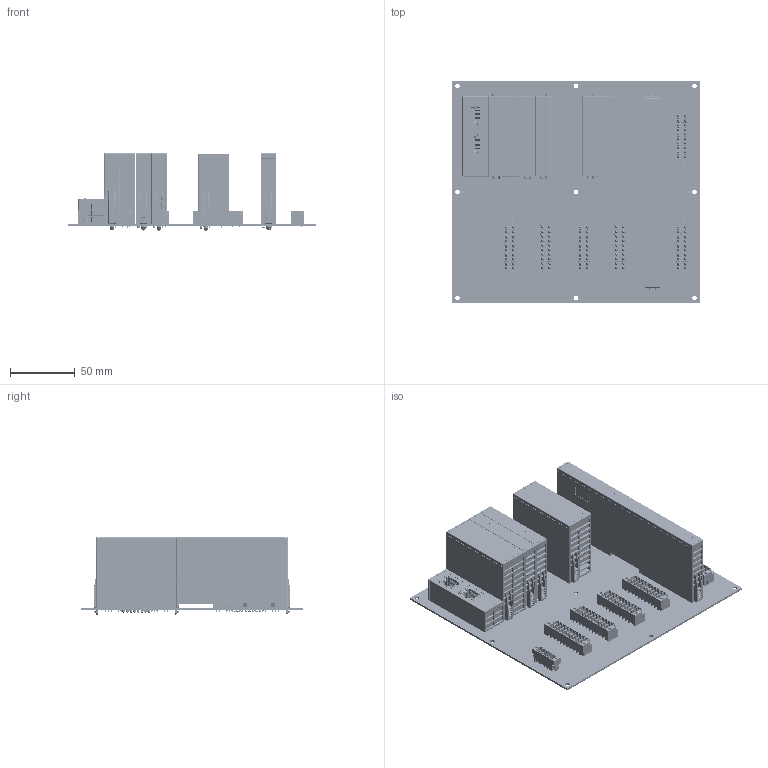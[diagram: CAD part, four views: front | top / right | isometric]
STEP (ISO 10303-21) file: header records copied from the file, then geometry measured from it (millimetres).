
FILE_DESCRIPTION(/* description */ (''),/* implementation_level */ '2;1');
FILE_NAME(/* name */ 'EJ8906_0005_0.stp',/* time_stamp */ '2024-11-08T08:16:14+01:00',/* author */ ('LarsSo'),/* organization */ (''),/* preprocessor_version */ 'ST-DEVELOPER v20',/* originating_system */ 'Autodesk Inventor 2024',/* authorisation */ '');
FILE_SCHEMA (('AUTOMOTIVE_DESIGN { 1 0 10303 214 3 1 1 }'));
Products named in the file (1): EJ8906_0005_0
Bounding box: 191 x 172 x 59.98 mm (x, y, z)
Volume: 410940.9 mm3; surface area: 202199.3 mm2
Topology: 1 solids, 5 shells, 21614 faces, 60844 edges, 38761 vertices
Faces by surface type: plane 16704, cylinder 3432, cone 1044, bspline 357, sphere 53, torus 24
Full cylindrical faces by diameter (mm): 0.457 x6, 0.8 x60, 1 x328, 1.4 x127, 1.9 x8, 2 x16, 2.2 x2, 2.3 x12, 3.5 x9, 5 x12
Entity records: 720875 total; most frequent: CARTESIAN_POINT 134095, ORIENTED_EDGE 120728, DIRECTION 111707, EDGE_CURVE 60364, LINE 49995, VECTOR 49995, VERTEX_POINT 38761, AXIS2_PLACEMENT_3D 30856
